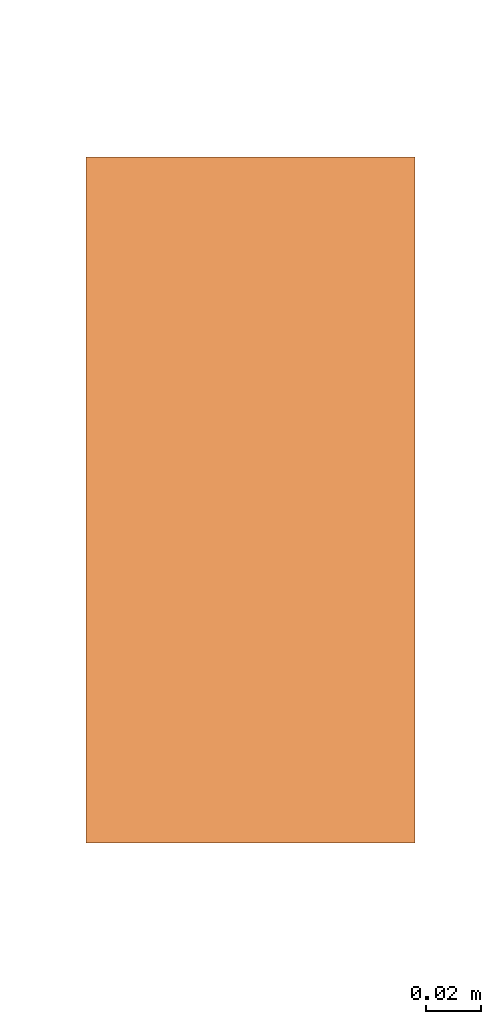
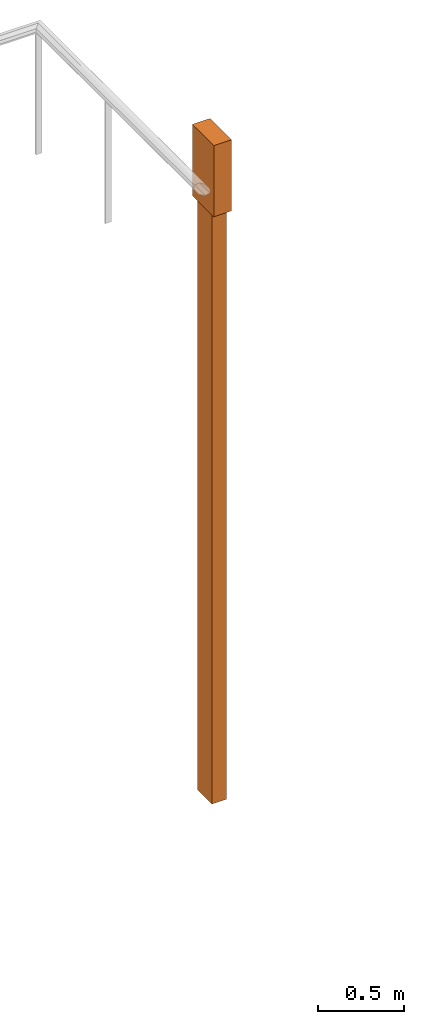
# One storey, part 15 of 15: 1 proxy.
"""IFC2X3 building model written with IfcOpenShell, lengths in centimetres."""

from ifc_helpers import new_model, entity, si_unit, converted_unit, derived_unit, direction, frame, frame_2d, origin, origin_2d_with_axis, place, context, subcontext, project, spatial, rectangle, extrude, source, transform, mapped, type_object, type_shapes, element, save


model = new_model("IFC2X3")

# Units and contexts
model_context = context("Model", 3, precision=0.001, world=origin(), true_north=direction((6.12303176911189e-17, 1.0)))
body_context = subcontext(model_context, "Body", "Model", "MODEL_VIEW")
ifc_project = project(units=[si_unit("LENGTHUNIT", "METRE", prefix="CENTI"), si_unit("AREAUNIT", "SQUARE_METRE"), si_unit("VOLUMEUNIT", "CUBIC_METRE"), converted_unit("PLANEANGLEUNIT", "DEGREE", entity("IfcRatioMeasure", 0.0174532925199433), si_unit("PLANEANGLEUNIT", "RADIAN"), dimensions=[0, 0, 0, 0, 0, 0, 0]), si_unit("MASSUNIT", "GRAM", prefix="KILO"), si_unit("TIMEUNIT", "SECOND"), si_unit("FREQUENCYUNIT", "HERTZ"), si_unit("THERMODYNAMICTEMPERATUREUNIT", "DEGREE_CELSIUS"), derived_unit("THERMALTRANSMITTANCEUNIT", [(si_unit("MASSUNIT", "GRAM", prefix="KILO"), 1), (si_unit("THERMODYNAMICTEMPERATUREUNIT", "KELVIN"), -1), (si_unit("TIMEUNIT", "SECOND"), -3)]), derived_unit("VOLUMETRICFLOWRATEUNIT", [(si_unit("LENGTHUNIT", "METRE"), 3), (si_unit("TIMEUNIT", "SECOND"), -1)]), si_unit("ELECTRICCURRENTUNIT", "AMPERE"), si_unit("ELECTRICVOLTAGEUNIT", "VOLT"), si_unit("POWERUNIT", "WATT"), si_unit("FORCEUNIT", "NEWTON", prefix="KILO"), si_unit("ILLUMINANCEUNIT", "LUX"), si_unit("LUMINOUSFLUXUNIT", "LUMEN"), si_unit("LUMINOUSINTENSITYUNIT", "CANDELA"), derived_unit("USERDEFINED", [(si_unit("MASSUNIT", "GRAM", prefix="KILO"), -1), (si_unit("LENGTHUNIT", "METRE"), -2), (si_unit("TIMEUNIT", "SECOND"), 3), (si_unit("LUMINOUSFLUXUNIT", "LUMEN"), 1)]), derived_unit("LINEARVELOCITYUNIT", [(si_unit("LENGTHUNIT", "METRE"), 1), (si_unit("TIMEUNIT", "SECOND"), -1)]), si_unit("PRESSUREUNIT", "PASCAL"), derived_unit("USERDEFINED", [(si_unit("LENGTHUNIT", "METRE"), -2), (si_unit("MASSUNIT", "GRAM", prefix="KILO"), 1), (si_unit("TIMEUNIT", "SECOND"), -2)])], contexts=[model_context])

# Site, building, storey
site_placement = place(None, frame((8.62739174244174, -249.285249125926, 0.0)))
site = spatial("IfcSite", under=ifc_project, at=site_placement, Name="Default", CompositionType="ELEMENT")
building_placement = place(site_placement, origin())
building = spatial("IfcBuilding", under=site, at=building_placement, CompositionType="ELEMENT")
storey_placement = place(building_placement, frame((0.0, 0.0, 801.0)))
storey = spatial("IfcBuildingStorey", under=building, at=storey_placement, Name="Acrotère E3", CompositionType="ELEMENT", Elevation=801.0)

# Proxy
building_element_proxy_type = type_object("IfcBuildingElementProxyType", Name="descenteEP", PredefinedType="NOTDEFINED")
shared_shape = source(origin(), body_context, "Body", "SweptSolid", [
    extrude(rectangle(XDim=10.0, YDim=17.0, at=frame_2d((0.0, 3.5527136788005e-15), x_axis=(1.0, 0.0))), frame((0.0, 0.0, -420.0), z_axis=(0.0, 0.0, 1.0), x_axis=(0.0, -1.0, 0.0)), (0.0, 0.0, 1.0), 420.0),
    extrude(rectangle(XDim=12.0, YDim=25.0, at=origin_2d_with_axis()), frame((0.0, 0.0, 0.0), z_axis=(0.0, 0.0, 1.0), x_axis=(0.0, 1.0, 0.0)), (0.0, 0.0, 1.0), 50.5380588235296),
])
type_shapes(building_element_proxy_type, [shared_shape])
proxy_placement = place(storey_placement, frame((3091.90482779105, 7452.48020813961, 0.0), z_axis=(0.0, 0.0, 1.0), x_axis=(0.0, 1.0, 0.0)))
element("IfcBuildingElementProxy", 1, at=proxy_placement, inside=storey, type_object=building_element_proxy_type, Name="descenteEP:descenteEP", ObjectType="descenteEP", context=body_context, shape_type="MappedRepresentation", body=[
    mapped(shared_shape, transform((0.0, 0.0, 0.0), scale=1.0)),
])

save(model, "model.ifc")
